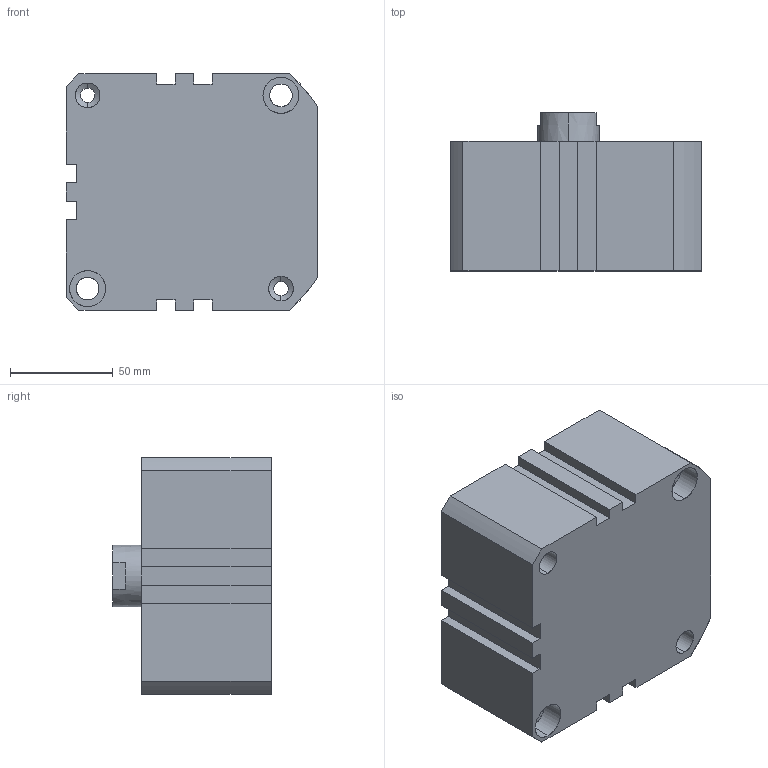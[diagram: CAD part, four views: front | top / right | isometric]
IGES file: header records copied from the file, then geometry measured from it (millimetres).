
Start section: SolidWorks IGES file using analytic representation for surfaces
Global section: file name: C:\Users\Toshiba\Desktop\XC#2-100-10.IGS; native system: SolidWorks 2014; preprocessor: SolidWorks 2014; author: Toshiba; date: 160523.161740; units: millimetre
Bounding box: 122.5 x 77 x 115 mm (x, y, z)
Surface area: 74513.9 mm2 (no closed solid volume)
Topology: 0 solids, 0 shells, 111 faces, 1863 edges, 1857 vertices
Faces by surface type: revolution 65, bspline 46
